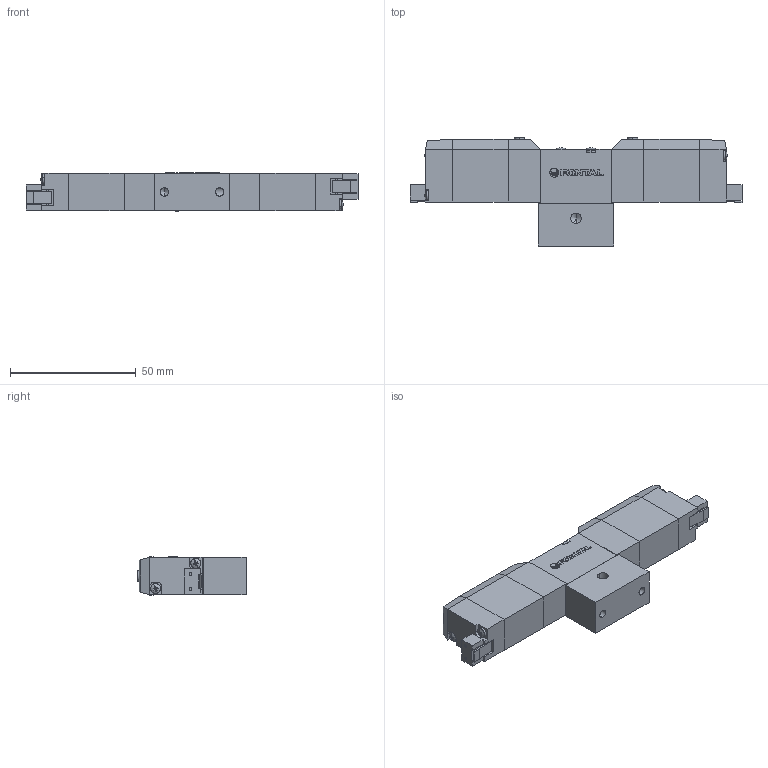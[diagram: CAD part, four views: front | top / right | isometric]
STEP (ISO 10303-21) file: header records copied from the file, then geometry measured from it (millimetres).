
FILE_DESCRIPTION (( 'STEP AP203' ), '1' );
FILE_NAME ('PCD245#-M5-#-SP-#.STEP', '2016-02-04T03:43:03', ( 'Sam Lin' ), ( '' ), 'SwSTEP 2.0', 'SolidWorks 2013', '' );
FILE_SCHEMA (( 'CONFIG_CONTROL_DESIGN' ));
Length unit declared in the file: metre
Products named in the file (11): ISO 7045 - M2 x 10; PC5-8; PC5-1; PC5-10; PC5-3; PCD245#-M5-#-SP-#; PC5-5; PC-MARK; PC5-6; ISO 7045 - M2.5 x 25; PC5-7
Assembly tree (19 placements, depth 2):
  PCD245#-M5-#-SP-#
    PC5-1
    PC5-3
    PC5-5  x2
    PC-MARK
    PC5-6  x2
    ISO 7045 - M2.5 x 25  x2
    PC5-7  x2
    ISO 7045 - M2 x 10  x4
    PC5-8  x2
    PC5-10  x2
Bounding box: 132 x 43 x 15.4 mm (x, y, z)
Volume: 49269.2 mm3; surface area: 21145.3 mm2
Topology: 27 solids, 27 shells, 617 faces, 1523 edges, 953 vertices
Faces by surface type: plane 391, cylinder 103, cone 79, bspline 44
Entity records: 11859 total; most frequent: CARTESIAN_POINT 2405, ORIENTED_EDGE 1672, DIRECTION 1632, EDGE_CURVE 836, LINE 554, VECTOR 554, VERTEX_POINT 540, AXIS2_PLACEMENT_3D 539
